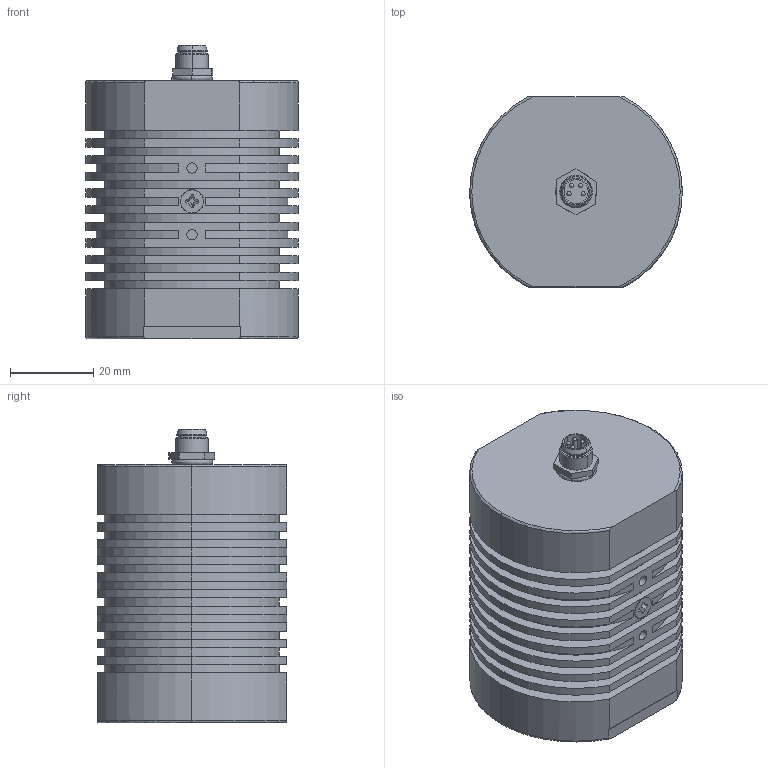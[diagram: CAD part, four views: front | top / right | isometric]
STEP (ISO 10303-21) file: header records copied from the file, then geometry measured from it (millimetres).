
FILE_DESCRIPTION(('STEP AP214'),'1');
FILE_NAME('SPOT-ONE_Kundenmodell.stp','2019-10-30T10:37:44',(' '),(' '),'Spatial InterOp 3D',' ',' ');
FILE_SCHEMA(('AUTOMOTIVE_DESIGN { 1 0 10303 214 1 1 1 1 }'));
Length unit declared in the file: millimetre
Products named in the file (1): Volumenkörper
Bounding box: 51 x 45.52 x 70.5 mm (x, y, z)
Volume: 75097.6 mm3; surface area: 37703 mm2
Topology: 1 solids, 14 shells, 774 faces, 2081 edges, 1361 vertices
Faces by surface type: cylinder 313, plane 251, cone 120, torus 76, bspline 8, sphere 4, revolution 2
Entity records: 33799 total; most frequent: CARTESIAN_POINT 8292, ORIENTED_EDGE 4122, DIRECTION 4023, EDGE_CURVE 2061, AXIS2_PLACEMENT_3D 1627, VERTEX_POINT 1361, CIRCLE 859, EDGE_LOOP 848
